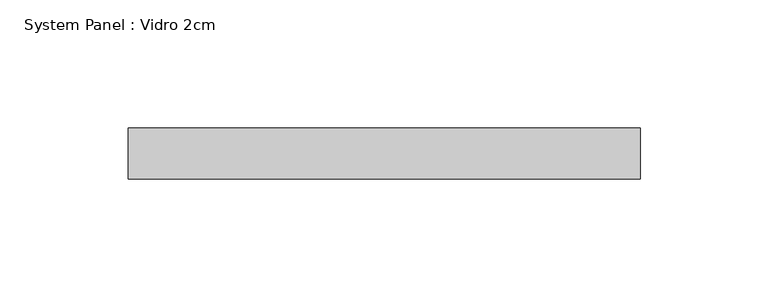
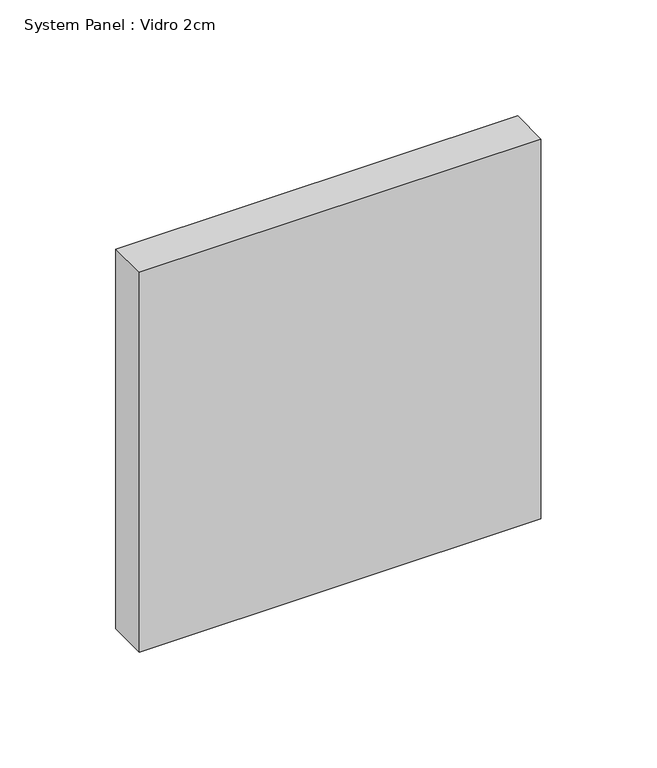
"""IFC4 building model written with IfcOpenShell, lengths in millimetres: plate geometry, System Panel : Vidro 2cm."""

from ifc_helpers import new_model, si_unit, origin, origin_with_axes, place, context, project, spatial, polyline, outline, extrude, source, transform, mapped, element, save


def system_panel_vidro_2cm_d02c202c(model_context):
    return source(origin(), model_context, "Body", "SweptSolid", [
        extrude(outline(polyline([(100.0, -20.0), (-100.0, -20.0), (-100.0, 0.0), (100.0, 0.0), (100.0, -20.0)])), origin_with_axes(), (0.0, 0.0, 1.0), 200.0),
    ])


if __name__ == "__main__":
    model = new_model("IFC4")
    model_context = context("Model", 3, world=origin())
    ifc_project = project(units=[si_unit("LENGTHUNIT", "METRE", prefix="MILLI")], contexts=[model_context])
    site = spatial("IfcSite", under=ifc_project)
    building = spatial("IfcBuilding", under=site)
    placement = place(None, origin())
    system_panel_vidro_2cm_shape = system_panel_vidro_2cm_d02c202c(model_context)
    element("IfcPlate", 1, ObjectType="System Panel : Vidro 2cm", at=placement, inside=building, context=model_context, shape_type="MappedRepresentation", body=[
        mapped(system_panel_vidro_2cm_shape, transform((0.0, 0.0, 0.0), x_axis=(1.0, 0.0, 0.0), y_axis=(0.0, 1.0, 0.0), z_axis=(0.0, 0.0, 1.0))),
    ])
    save(model, "model.ifc")
